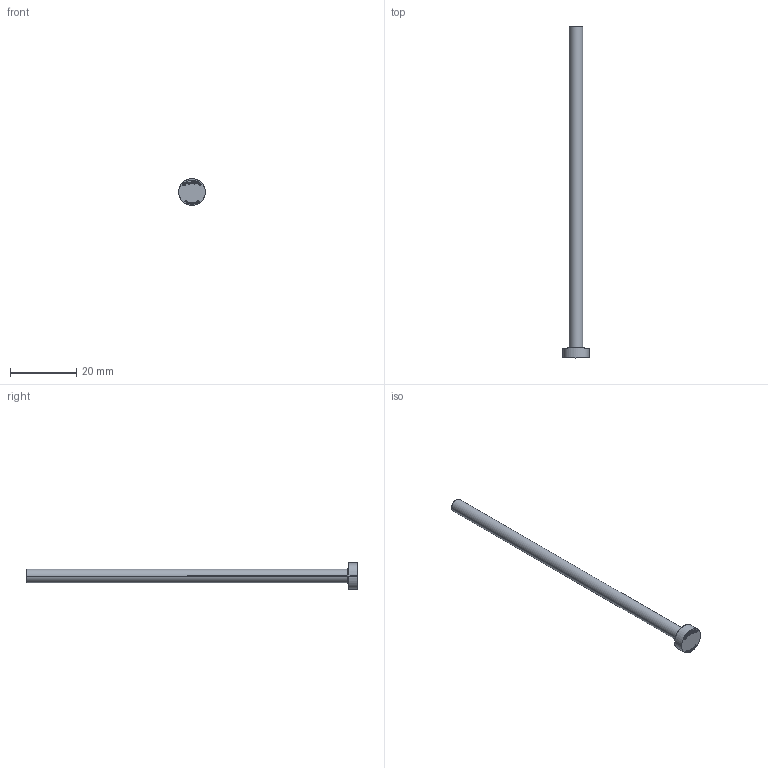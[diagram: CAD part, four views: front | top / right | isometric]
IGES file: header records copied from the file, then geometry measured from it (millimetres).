
Start section: SolidWorks IGES file using analytic representation for surfaces
Global section: file name: C:\Users\User\Downloads\Matripeça 31-08 tar\PB - PINO EXTRATOR TIPO _B_ (CATÁLOGO)\PB04,0\PB04,0100.IGS; native system: SolidWorks 2024; preprocessor: SolidWorks 2024; author: User; date: 260901.141846; units: millimetre
Bounding box: 8 x 100 x 8 mm (x, y, z)
Surface area: 1399.6 mm2 (no closed solid volume)
Topology: 0 solids, 0 shells, 396 faces, 3335 edges, 3335 vertices
Faces by surface type: bspline 382, revolution 14
